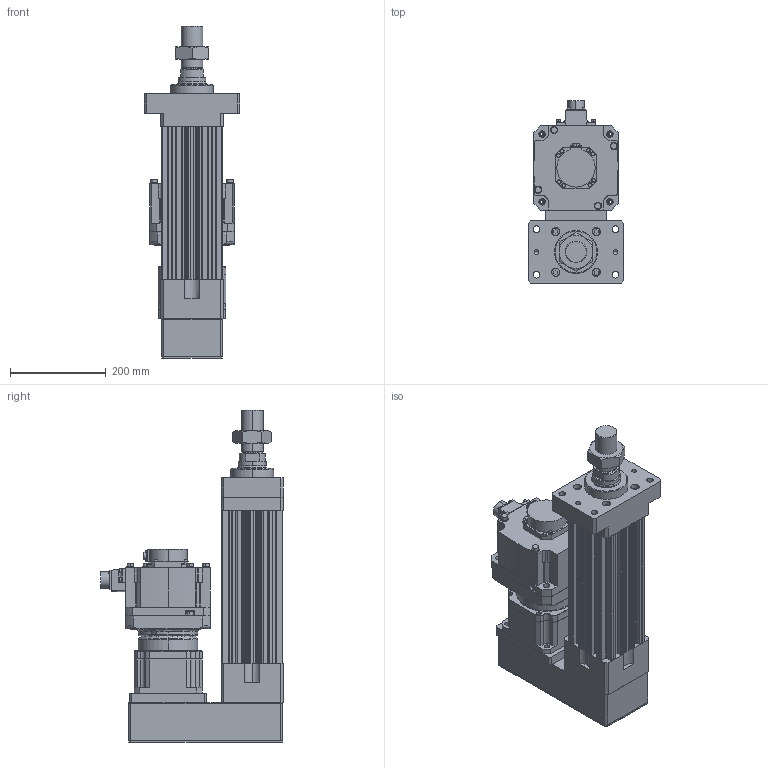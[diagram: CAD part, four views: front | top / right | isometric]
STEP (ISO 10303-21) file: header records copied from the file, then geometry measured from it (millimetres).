
FILE_DESCRIPTION (( 'STEP AP203' ), '1' );
FILE_NAME ('HES130FS(HS)-P100-W020G00-M-FMA.STEP', '2023-01-30T06:09:07', ( 'tms' ), ( '' ), 'SwSTEP 2.0', 'SolidWorks 2013', '' );
FILE_SCHEMA (( 'CONFIG_CONTROL_DESIGN' ));
Length unit declared in the file: millimetre
Products named in the file (9): AB1421; HES130 ROD M ST100; P1301500001; M45X1.5P; P0403500801; AB142-003[HG-SR352]; HG-SR202; HES130-P100-G142-FMA; HES130FS(HS)-P100-W020G00-M-FMA
Assembly tree (8 placements, depth 3):
  HES130FS(HS)-P100-W020G00-M-FMA
    HES130-P100-G142-FMA
    HES130 ROD M ST100
    M45X1.5P
    AB142-003[HG-SR352]
      AB1421
      P1301500001
      P0403500801
    HG-SR202
Bounding box: 200 x 381.85 x 694 mm (x, y, z)
Volume: 11281067.7 mm3; surface area: 1229675 mm2
Topology: 4 solids, 18 shells, 1401 faces, 3660 edges, 2370 vertices
Faces by surface type: cylinder 643, plane 530, cone 146, bspline 76, torus 6
Entity records: 52014 total; most frequent: CARTESIAN_POINT 16222, DIRECTION 7460, ORIENTED_EDGE 7222, EDGE_CURVE 3633, AXIS2_PLACEMENT_3D 2825, VERTEX_POINT 2370, LINE 1810, VECTOR 1810
